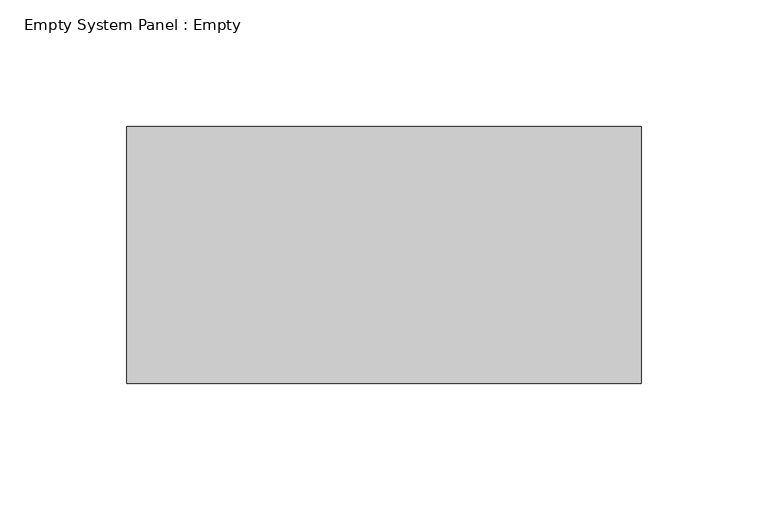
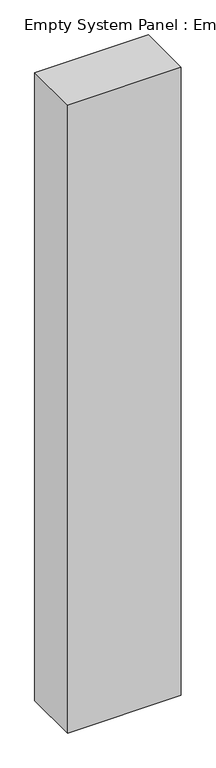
"""IFC4 building model written with IfcOpenShell, lengths in millimetres: plate geometry, Empty System Panel : Empty."""

from ifc_helpers import new_model, si_unit, origin, origin_with_axes, place, context, project, spatial, polyline, outline, extrude, source, transform, mapped, element, save


def empty_system_panel_empty_e0dd518b(model_context):
    return source(origin(), model_context, "Body", "SweptSolid", [
        extrude(outline(polyline([(101.6, -50.8), (-101.6, -50.8), (-101.6, 50.8), (101.6, 50.8), (101.6, -50.8)])), origin_with_axes(), (0.0, 0.0, 1.0), 1187.45),
    ])


if __name__ == "__main__":
    model = new_model("IFC4")
    model_context = context("Model", 3, world=origin())
    ifc_project = project(units=[si_unit("LENGTHUNIT", "METRE", prefix="MILLI")], contexts=[model_context])
    site = spatial("IfcSite", under=ifc_project)
    building = spatial("IfcBuilding", under=site)
    placement = place(None, origin())
    empty_system_panel_empty_shape = empty_system_panel_empty_e0dd518b(model_context)
    element("IfcPlate", 1, ObjectType="Empty System Panel : Empty", at=placement, inside=building, context=model_context, shape_type="MappedRepresentation", body=[
        mapped(empty_system_panel_empty_shape, transform((0.0, 0.0, 0.0), x_axis=(1.0, 0.0, 0.0), y_axis=(0.0, 1.0, 0.0), z_axis=(0.0, 0.0, 1.0))),
    ])
    save(model, "model.ifc")
